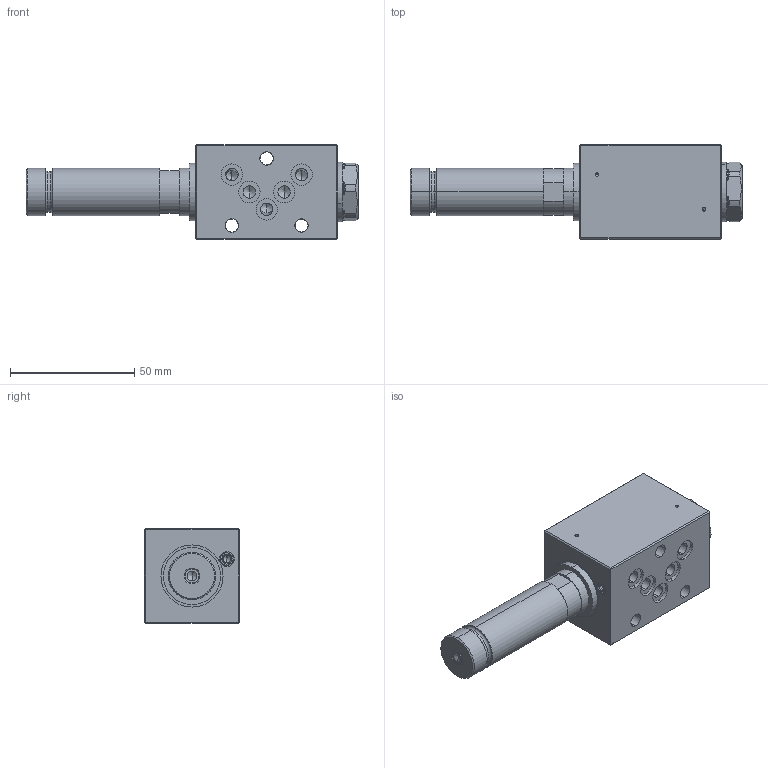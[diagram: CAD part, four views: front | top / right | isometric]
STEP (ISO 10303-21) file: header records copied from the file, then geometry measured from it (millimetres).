
FILE_DESCRIPTION (( 'STEP AP203' ), '1' );
FILE_NAME ('WDMFA04-4_2-Aside.step', '2013-07-25T09:07:26', ( 'Wandfluh AG' ), ( 'Wandfluh AG' ), 'SwSTEP 2.0', 'SolidWorks 2012', '' );
FILE_SCHEMA (( 'CONFIG_CONTROL_DESIGN' ));
Length unit declared in the file: millimetre
Products named in the file (1): WDMFA04-4_2-Aside
Bounding box: 133.5 x 38 x 38 mm (x, y, z)
Volume: 93369.2 mm3; surface area: 28028.1 mm2
Topology: 8 solids, 8 shells, 979 faces, 2670 edges, 1729 vertices
Faces by surface type: plane 586, cylinder 258, cone 71, torus 36, bspline 28
Entity records: 32890 total; most frequent: CARTESIAN_POINT 7646, DIRECTION 5337, ORIENTED_EDGE 5296, EDGE_CURVE 2648, AXIS2_PLACEMENT_3D 1876, VERTEX_POINT 1729, LINE 1585, VECTOR 1585
